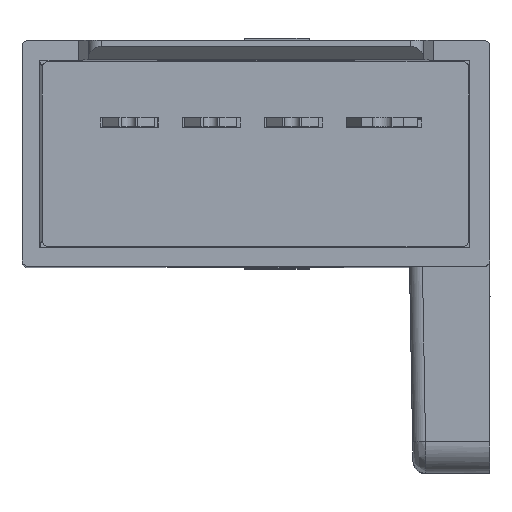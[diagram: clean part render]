
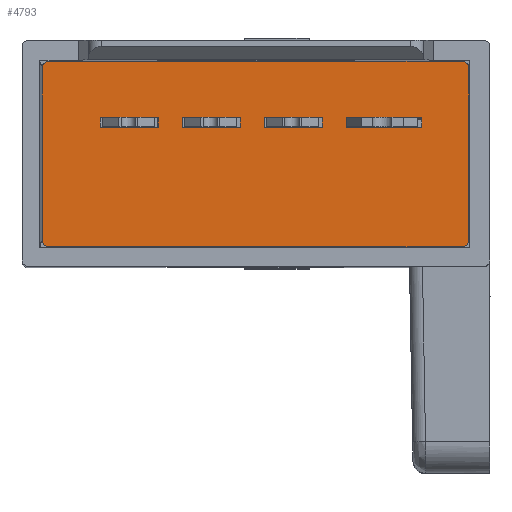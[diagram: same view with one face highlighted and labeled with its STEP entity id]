
A CAD part, top view. The second image highlights one B-rep face of the part: STEP entity #4793.
In plain terms, the highlighted planar face has unit normal (0, 0, 1).
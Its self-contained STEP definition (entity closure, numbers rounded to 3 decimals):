
#3715=DIRECTION('',(0.,-1.,0.));
#3716=VECTOR('',#3715,0.3);
#3717=CARTESIAN_POINT('',(-33.556,-2.195,
15.359));
#3718=LINE('',#3717,#3716);
#3719=DIRECTION('',(1.,0.,0.));
#3720=VECTOR('',#3719,1.8);
#3721=CARTESIAN_POINT('',(-41.176,-2.195,
15.359));
#3722=LINE('',#3721,#3720);
#3723=DIRECTION('',(-1.,0.,0.));
#3724=VECTOR('',#3723,1.8);
#3725=CARTESIAN_POINT('',(-39.376,-2.495,
15.359));
#3726=LINE('',#3725,#3724);
#3727=CARTESIAN_POINT('',(-42.776,-0.655,
15.359));
#3728=DIRECTION('',(0.,0.,1.));
#3729=DIRECTION('',(0.,1.,0.));
#3730=AXIS2_PLACEMENT_3D('',#3727,#3728,#3729);
#3732=CARTESIAN_POINT('',(-29.966,-0.655,
15.359));
#3733=DIRECTION('',(0.,0.,1.));
#3734=DIRECTION('',(1.,0.,0.));
#3735=AXIS2_PLACEMENT_3D('',#3732,#3733,#3734);
#3737=CARTESIAN_POINT('',(-29.966,-5.995,
15.359));
#3738=DIRECTION('',(0.,0.,1.));
#3739=DIRECTION('',(0.,-1.,0.));
#3740=AXIS2_PLACEMENT_3D('',#3737,#3738,#3739);
#3742=DIRECTION('',(1.,0.,0.));
#3743=VECTOR('',#3742,12.81);
#3744=CARTESIAN_POINT('',(-42.776,-6.195,
15.359));
#3745=LINE('',#3744,#3743);
#3746=CARTESIAN_POINT('',(-42.776,-5.995,
15.359));
#3747=DIRECTION('',(0.,0.,1.));
#3748=DIRECTION('',(-1.,0.,0.));
#3749=AXIS2_PLACEMENT_3D('',#3746,#3747,#3748);
#3751=DIRECTION('',(-1.,0.,0.));
#3752=VECTOR('',#3751,2.34);
#3753=CARTESIAN_POINT('',(-31.216,-2.495,
15.359));
#3754=LINE('',#3753,#3752);
#3755=DIRECTION('',(1.,0.,0.));
#3756=VECTOR('',#3755,2.34);
#3757=CARTESIAN_POINT('',(-33.556,-2.195,
15.359));
#3758=LINE('',#3757,#3756);
#3771=DIRECTION('',(0.,-1.,0.));
#3772=VECTOR('',#3771,0.3);
#3773=CARTESIAN_POINT('',(-41.176,-2.195,
15.359));
#3774=LINE('',#3773,#3772);
#3867=DIRECTION('',(0.,1.,0.));
#3868=VECTOR('',#3867,0.3);
#3869=CARTESIAN_POINT('',(-31.216,-2.495,
15.359));
#3870=LINE('',#3869,#3868);
#4151=DIRECTION('',(0.,1.,0.));
#4152=VECTOR('',#4151,0.3);
#4153=CARTESIAN_POINT('',(-39.376,-2.495,
15.359));
#4154=LINE('',#4153,#4152);
#4267=DIRECTION('',(0.,1.,0.));
#4268=VECTOR('',#4267,5.34);
#4269=CARTESIAN_POINT('',(-42.976,-5.995,
15.359));
#4270=LINE('',#4269,#4268);
#4287=DIRECTION('',(0.,-1.,0.));
#4288=VECTOR('',#4287,5.34);
#4289=CARTESIAN_POINT('',(-29.766,-0.655,
15.359));
#4290=LINE('',#4289,#4288);
#4303=DIRECTION('',(1.,0.,0.));
#4304=VECTOR('',#4303,12.81);
#4305=CARTESIAN_POINT('',(-42.776,-0.455,
15.359));
#4306=LINE('',#4305,#4304);
#4319=DIRECTION('',(0.,-1.,0.));
#4320=VECTOR('',#4319,0.3);
#4321=CARTESIAN_POINT('',(-38.636,-2.195,
15.359));
#4322=LINE('',#4321,#4320);
#4339=DIRECTION('',(1.,0.,0.));
#4340=VECTOR('',#4339,1.8);
#4341=CARTESIAN_POINT('',(-38.636,-2.495,
15.359));
#4342=LINE('',#4341,#4340);
#4343=DIRECTION('',(0.,1.,0.));
#4344=VECTOR('',#4343,0.3);
#4345=CARTESIAN_POINT('',(-36.836,-2.495,
15.359));
#4346=LINE('',#4345,#4344);
#4363=DIRECTION('',(-1.,0.,0.));
#4364=VECTOR('',#4363,1.8);
#4365=CARTESIAN_POINT('',(-36.836,-2.195,
15.359));
#4366=LINE('',#4365,#4364);
#4391=DIRECTION('',(0.,-1.,0.));
#4392=VECTOR('',#4391,0.3);
#4393=CARTESIAN_POINT('',(-36.096,-2.195,
15.359));
#4394=LINE('',#4393,#4392);
#4411=DIRECTION('',(1.,0.,0.));
#4412=VECTOR('',#4411,1.8);
#4413=CARTESIAN_POINT('',(-36.096,-2.495,
15.359));
#4414=LINE('',#4413,#4412);
#4415=DIRECTION('',(0.,1.,0.));
#4416=VECTOR('',#4415,0.3);
#4417=CARTESIAN_POINT('',(-34.296,-2.495,
15.359));
#4418=LINE('',#4417,#4416);
#4435=DIRECTION('',(-1.,0.,0.));
#4436=VECTOR('',#4435,1.8);
#4437=CARTESIAN_POINT('',(-34.296,-2.195,
15.359));
#4438=LINE('',#4437,#4436);
#4452=CARTESIAN_POINT('',(-33.556,-2.195,
15.359));
#4454=VERTEX_POINT('',#4452);
#4455=CARTESIAN_POINT('',(-33.556,-2.495,
15.359));
#4456=VERTEX_POINT('',#4455);
#4462=CARTESIAN_POINT('',(-41.176,-2.195,
15.359));
#4464=VERTEX_POINT('',#4462);
#4465=CARTESIAN_POINT('',(-41.176,-2.495,
15.359));
#4466=VERTEX_POINT('',#4465);
#4543=CARTESIAN_POINT('',(-38.636,-2.195,
15.359));
#4545=VERTEX_POINT('',#4543);
#4549=CARTESIAN_POINT('',(-36.836,-2.195,
15.359));
#4550=VERTEX_POINT('',#4549);
#4551=CARTESIAN_POINT('',(-36.836,-2.495,
15.359));
#4553=VERTEX_POINT('',#4551);
#4557=CARTESIAN_POINT('',(-38.636,-2.495,
15.359));
#4558=VERTEX_POINT('',#4557);
#4559=CARTESIAN_POINT('',(-36.096,-2.195,
15.359));
#4561=VERTEX_POINT('',#4559);
#4565=CARTESIAN_POINT('',(-34.296,-2.195,
15.359));
#4566=VERTEX_POINT('',#4565);
#4567=CARTESIAN_POINT('',(-34.296,-2.495,
15.359));
#4569=VERTEX_POINT('',#4567);
#4573=CARTESIAN_POINT('',(-36.096,-2.495,
15.359));
#4574=VERTEX_POINT('',#4573);
#4576=CARTESIAN_POINT('',(-39.376,-2.495,
15.359));
#4578=VERTEX_POINT('',#4576);
#4580=CARTESIAN_POINT('',(-31.216,-2.495,
15.359));
#4582=VERTEX_POINT('',#4580);
#4583=CARTESIAN_POINT('',(-29.766,-5.995,
15.359));
#4584=VERTEX_POINT('',#4583);
#4585=CARTESIAN_POINT('',(-29.966,-6.195,
15.359));
#4586=VERTEX_POINT('',#4585);
#4587=CARTESIAN_POINT('',(-29.766,-0.655,
15.359));
#4588=VERTEX_POINT('',#4587);
#4589=CARTESIAN_POINT('',(-42.976,-5.995,
15.359));
#4590=VERTEX_POINT('',#4589);
#4591=CARTESIAN_POINT('',(-42.976,-0.655,
15.359));
#4592=VERTEX_POINT('',#4591);
#4593=CARTESIAN_POINT('',(-42.776,-6.195,
15.359));
#4594=VERTEX_POINT('',#4593);
#4595=CARTESIAN_POINT('',(-29.966,-0.455,
15.359));
#4596=VERTEX_POINT('',#4595);
#4597=CARTESIAN_POINT('',(-42.776,-0.455,
15.359));
#4598=VERTEX_POINT('',#4597);
#4599=CARTESIAN_POINT('',(-39.376,-2.195,
15.359));
#4600=VERTEX_POINT('',#4599);
#4601=CARTESIAN_POINT('',(-31.216,-2.195,
15.359));
#4602=VERTEX_POINT('',#4601);
#4732=CARTESIAN_POINT('',(-36.376,-3.245,
15.359));
#4733=DIRECTION('',(0.,0.,-1.));
#4734=DIRECTION('',(1.,0.,0.));
#4735=AXIS2_PLACEMENT_3D('',#4732,#4733,#4734);
#4736=PLANE('',#4735);
#4738=ORIENTED_EDGE('',*,*,#4737,.T.);
#4740=ORIENTED_EDGE('',*,*,#4739,.F.);
#4742=ORIENTED_EDGE('',*,*,#4741,.T.);
#4744=ORIENTED_EDGE('',*,*,#4743,.F.);
#4746=ORIENTED_EDGE('',*,*,#4745,.T.);
#4748=ORIENTED_EDGE('',*,*,#4747,.F.);
#4750=ORIENTED_EDGE('',*,*,#4749,.F.);
#4752=ORIENTED_EDGE('',*,*,#4751,.F.);
#4753=EDGE_LOOP('',(#4738,#4740,#4742,#4744,#4746,#4748,#4750,#4752));
#4754=FACE_OUTER_BOUND('',#4753,.F.);
#4756=ORIENTED_EDGE('',*,*,#4755,.F.);
#4758=ORIENTED_EDGE('',*,*,#4757,.T.);
#4760=ORIENTED_EDGE('',*,*,#4759,.F.);
#4762=ORIENTED_EDGE('',*,*,#4761,.T.);
#4763=EDGE_LOOP('',(#4756,#4758,#4760,#4762));
#4764=FACE_BOUND('',#4763,.F.);
#4766=ORIENTED_EDGE('',*,*,#4765,.F.);
#4768=ORIENTED_EDGE('',*,*,#4767,.T.);
#4769=ORIENTED_EDGE('',*,*,#4723,.F.);
#4770=ORIENTED_EDGE('',*,*,#4712,.T.);
#4771=EDGE_LOOP('',(#4766,#4768,#4769,#4770));
#4772=FACE_BOUND('',#4771,.F.);
#4774=ORIENTED_EDGE('',*,*,#4773,.T.);
#4776=ORIENTED_EDGE('',*,*,#4775,.T.);
#4778=ORIENTED_EDGE('',*,*,#4777,.T.);
#4780=ORIENTED_EDGE('',*,*,#4779,.T.);
#4781=EDGE_LOOP('',(#4774,#4776,#4778,#4780));
#4782=FACE_BOUND('',#4781,.F.);
#4784=ORIENTED_EDGE('',*,*,#4783,.T.);
#4786=ORIENTED_EDGE('',*,*,#4785,.T.);
#4788=ORIENTED_EDGE('',*,*,#4787,.T.);
#4790=ORIENTED_EDGE('',*,*,#4789,.T.);
#4791=EDGE_LOOP('',(#4784,#4786,#4788,#4790));
#4792=FACE_BOUND('',#4791,.F.);
#3731=CIRCLE('',#3730,0.2);
#3736=CIRCLE('',#3735,0.2);
#3741=CIRCLE('',#3740,0.2);
#3750=CIRCLE('',#3749,0.2);
#4712=EDGE_CURVE('',#4454,#4456,#3718,.T.);
#4723=EDGE_CURVE('',#4454,#4602,#3758,.T.);
#4737=EDGE_CURVE('',#4590,#4592,#4270,.T.);
#4739=EDGE_CURVE('',#4598,#4592,#3731,.T.);
#4741=EDGE_CURVE('',#4598,#4596,#4306,.T.);
#4743=EDGE_CURVE('',#4588,#4596,#3736,.T.);
#4745=EDGE_CURVE('',#4588,#4584,#4290,.T.);
#4747=EDGE_CURVE('',#4586,#4584,#3741,.T.);
#4749=EDGE_CURVE('',#4594,#4586,#3745,.T.);
#4751=EDGE_CURVE('',#4590,#4594,#3750,.T.);
#4755=EDGE_CURVE('',#4464,#4600,#3722,.T.);
#4757=EDGE_CURVE('',#4464,#4466,#3774,.T.);
#4759=EDGE_CURVE('',#4578,#4466,#3726,.T.);
#4761=EDGE_CURVE('',#4578,#4600,#4154,.T.);
#4765=EDGE_CURVE('',#4582,#4456,#3754,.T.);
#4767=EDGE_CURVE('',#4582,#4602,#3870,.T.);
#4773=EDGE_CURVE('',#4569,#4566,#4418,.T.);
#4775=EDGE_CURVE('',#4566,#4561,#4438,.T.);
#4777=EDGE_CURVE('',#4561,#4574,#4394,.T.);
#4779=EDGE_CURVE('',#4574,#4569,#4414,.T.);
#4783=EDGE_CURVE('',#4558,#4553,#4342,.T.);
#4785=EDGE_CURVE('',#4553,#4550,#4346,.T.);
#4787=EDGE_CURVE('',#4550,#4545,#4366,.T.);
#4789=EDGE_CURVE('',#4545,#4558,#4322,.T.);
#4793=ADVANCED_FACE('',(#4754,#4764,#4772,#4782,#4792),#4736,.F.);
